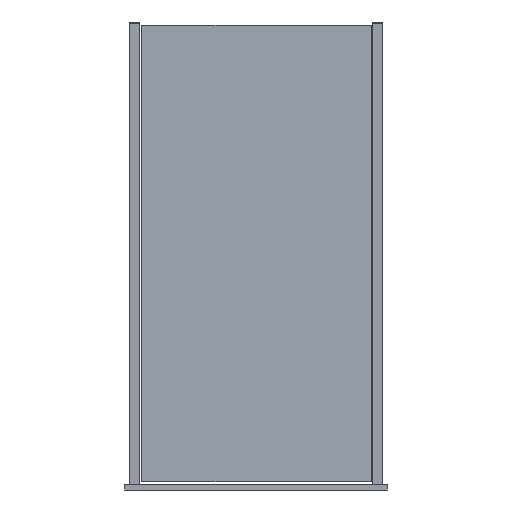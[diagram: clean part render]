
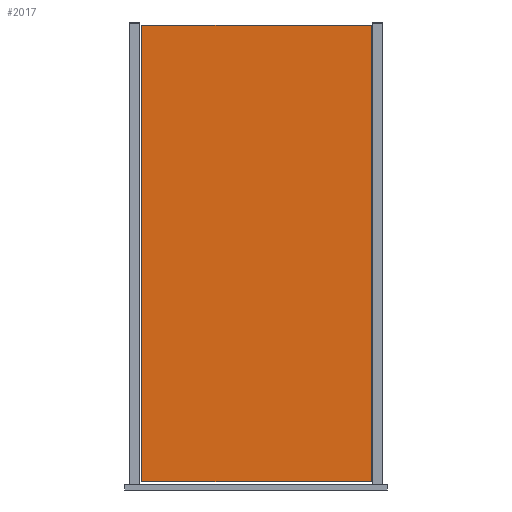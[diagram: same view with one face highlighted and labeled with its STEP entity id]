
A CAD part, front view. The second image highlights one B-rep face of the part: STEP entity #2017.
In plain terms, the highlighted planar face has unit normal (0, -1, 0) as drawn and (0, 0, 1) by its records, which use the part's own axes.
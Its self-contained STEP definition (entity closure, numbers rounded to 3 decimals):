
#1622=CARTESIAN_POINT('',(998.5,0.,40.0));
#1623=VERTEX_POINT('',#1622);
#1631=CARTESIAN_POINT('',(1.5,0.,40.0));
#1632=VERTEX_POINT('',#1631);
#1633=CARTESIAN_POINT('',(998.5,0.,40.0));
#1634=DIRECTION('',(-1.0,0.0,0.0));
#1635=VECTOR('',#1634,997.0);
#1636=LINE('',#1633,#1635);
#1637=EDGE_CURVE('',#1623,#1632,#1636,.T.);
#1987=CARTESIAN_POINT('',(500.,990.0,40.0));
#1988=DIRECTION('',(0.0,0.0,1.0));
#1989=DIRECTION('',(1.0,0.0,0.0));
#1990=AXIS2_PLACEMENT_3D('',#1987,#1988,#1989);
#1991=PLANE('',#1990);
#1992=CARTESIAN_POINT('',(1.5,1980.0,40.0));
#1993=VERTEX_POINT('',#1992);
#1994=CARTESIAN_POINT('',(1.5,0.0,40.0));
#1995=DIRECTION('',(0.0,1.0,0.0));
#1996=VECTOR('',#1995,1980.0);
#1997=LINE('',#1994,#1996);
#1998=EDGE_CURVE('',#1632,#1993,#1997,.T.);
#1999=ORIENTED_EDGE('',*,*,#1998,.F.);
#2000=ORIENTED_EDGE('',*,*,#1637,.F.);
#2001=CARTESIAN_POINT('',(998.5,1980.0,40.0));
#2002=VERTEX_POINT('',#2001);
#2003=CARTESIAN_POINT('',(998.5,1980.0,40.0));
#2004=DIRECTION('',(0.0,-1.0,0.0));
#2005=VECTOR('',#2004,1980.);
#2006=LINE('',#2003,#2005);
#2007=EDGE_CURVE('',#2002,#1623,#2006,.T.);
#2008=ORIENTED_EDGE('',*,*,#2007,.F.);
#2009=CARTESIAN_POINT('',(1.5,1980.0,40.0));
#2010=DIRECTION('',(1.0,0.0,0.0));
#2011=VECTOR('',#2010,997.);
#2012=LINE('',#2009,#2011);
#2013=EDGE_CURVE('',#1993,#2002,#2012,.T.);
#2014=ORIENTED_EDGE('',*,*,#2013,.F.);
#2015=EDGE_LOOP('',(#1999,#2000,#2008,#2014));
#2016=FACE_OUTER_BOUND('',#2015,.T.);
#2017=ADVANCED_FACE('',(#2016),#1991,.T.);
